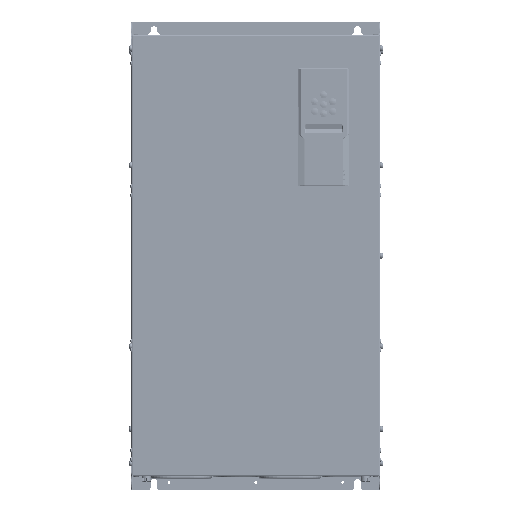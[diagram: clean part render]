
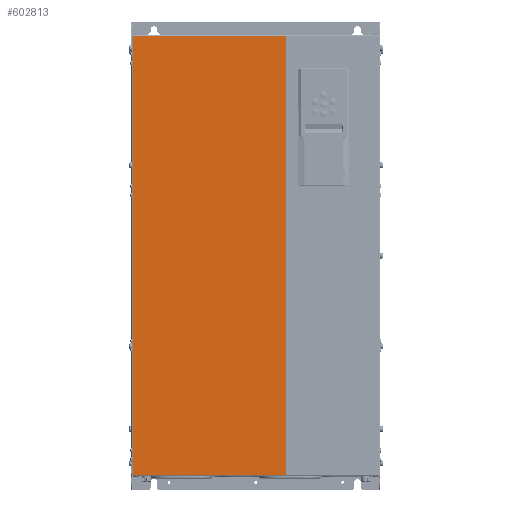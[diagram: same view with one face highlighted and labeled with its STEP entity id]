
A CAD part, top view. The second image highlights one B-rep face of the part: STEP entity #602813.
In plain terms, the highlighted planar face has unit normal (0, 0, 1).
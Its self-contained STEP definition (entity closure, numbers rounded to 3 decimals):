
#599885=DIRECTION('',(0.,1.,0.));
#599886=VECTOR('',#599885,581.);
#599887=CARTESIAN_POINT('',(-163.,-0.5,140.));
#599888=LINE('',#599887,#599886);
#601075=DIRECTION('',(0.,-1.,0.));
#601076=VECTOR('',#601075,581.);
#601077=CARTESIAN_POINT('',(40.,580.5,140.));
#601078=LINE('',#601077,#601076);
#601082=DIRECTION('',(-1.,0.,0.));
#601083=VECTOR('',#601082,203.);
#601084=CARTESIAN_POINT('',(40.,-0.5,140.));
#601085=LINE('',#601084,#601083);
#601089=DIRECTION('',(-1.,0.,0.));
#601090=VECTOR('',#601089,203.);
#601091=CARTESIAN_POINT('',(40.,580.5,140.));
#601092=LINE('',#601091,#601090);
#601212=CARTESIAN_POINT('',(40.,580.5,140.));
#601213=CARTESIAN_POINT('',(40.,-0.5,140.));
#601214=VERTEX_POINT('',#601212);
#601215=VERTEX_POINT('',#601213);
#601372=CARTESIAN_POINT('',(-163.,580.5,140.));
#601373=VERTEX_POINT('',#601372);
#601377=CARTESIAN_POINT('',(-163.,-0.5,140.));
#601379=VERTEX_POINT('',#601377);
#602802=CARTESIAN_POINT('',(-164.5,582.,140.));
#602803=DIRECTION('',(0.,0.,1.));
#602804=DIRECTION('',(0.,-1.,0.));
#602805=AXIS2_PLACEMENT_3D('',#602802,#602803,#602804);
#602806=PLANE('',#602805);
#602807=ORIENTED_EDGE('',*,*,#602794,.T.);
#602808=ORIENTED_EDGE('',*,*,#602725,.T.);
#602809=ORIENTED_EDGE('',*,*,#601776,.T.);
#602810=ORIENTED_EDGE('',*,*,#602777,.F.);
#602811=EDGE_LOOP('',(#602807,#602808,#602809,#602810));
#602812=FACE_OUTER_BOUND('',#602811,.F.);
#602813=ADVANCED_FACE('',(#602812),#602806,.T.);
#601776=EDGE_CURVE('',#601379,#601373,#599888,.T.);
#602725=EDGE_CURVE('',#601215,#601379,#601085,.T.);
#602777=EDGE_CURVE('',#601214,#601373,#601092,.T.);
#602794=EDGE_CURVE('',#601214,#601215,#601078,.T.);
